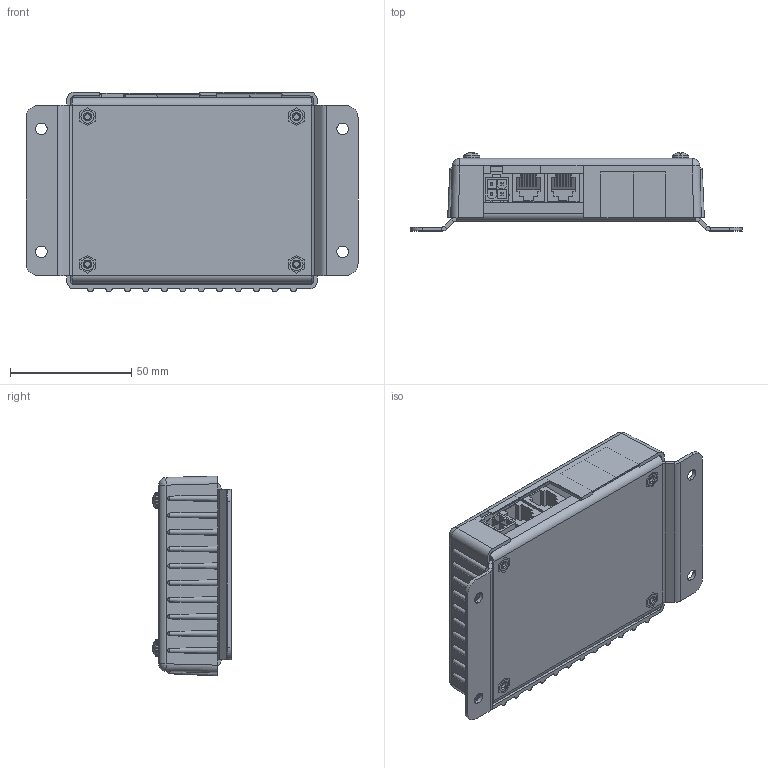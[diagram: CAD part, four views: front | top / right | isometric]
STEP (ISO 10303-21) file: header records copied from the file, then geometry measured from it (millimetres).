
FILE_DESCRIPTION (( 'STEP AP203' ), '1' );
FILE_NAME ('AME-RVC-0010 A ME-RVC Bridge.STEP', '2019-02-13T23:29:59', ( '' ), ( '' ), 'SwSTEP 2.0', 'SolidWorks 2015', '' );
FILE_SCHEMA (( 'CONFIG_CONTROL_DESIGN' ));
Products named in the file (1): AME-RVC-0010 A ME-RVC Bridge
Bounding box: 137.16 x 32.34 x 82.55 mm (x, y, z)
Surface area: 81499.7 mm2 (no closed solid volume)
Topology: 0 solids, 18 shells, 4235 faces, 11961 edges, 7929 vertices
Faces by surface type: plane 3091, cylinder 633, bspline 290, cone 189, torus 16, sphere 16
Entity records: 173254 total; most frequent: CARTESIAN_POINT 67954, ORIENTED_EDGE 23708, DIRECTION 18934, EDGE_CURVE 11961, LINE 9416, VECTOR 9416, VERTEX_POINT 7929, AXIS2_PLACEMENT_3D 4759
